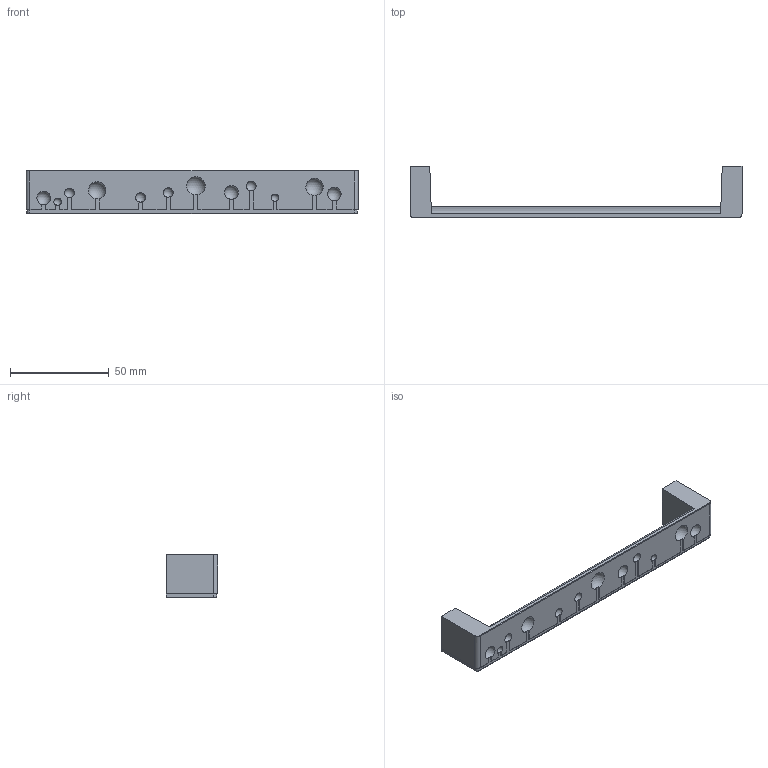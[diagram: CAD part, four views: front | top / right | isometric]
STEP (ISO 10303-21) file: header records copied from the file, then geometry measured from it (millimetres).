
FILE_DESCRIPTION( ( '' ), '1' );
FILE_NAME( 'D:/1.AUTOCAD EXPORT/Group 10/sheet_10_1/9132305.stp', '2013-10-17T04:23:55', ( '' ), ( '' ), ' ', ' ', ' ' );
FILE_SCHEMA( ( 'automotive_design' ) );
Length unit declared in the file: millimetre
Products named in the file (1): 1
Bounding box: 168 x 26 x 22 mm (x, y, z)
Volume: 25719.6 mm3; surface area: 11844.7 mm2
Topology: 1 solids, 1 shells, 93 faces, 263 edges, 174 vertices
Faces by surface type: plane 51, cylinder 26, sphere 12, cone 4
Entity records: 6034 total; most frequent: CARTESIAN_POINT 581, DIRECTION 543, STYLED_ITEM 531, PRESENTATION_STYLE_ASSIGNMENT 531, COLOUR_RGB 531, ORIENTED_EDGE 526, EDGE_CURVE 263, CURVE_STYLE 263
